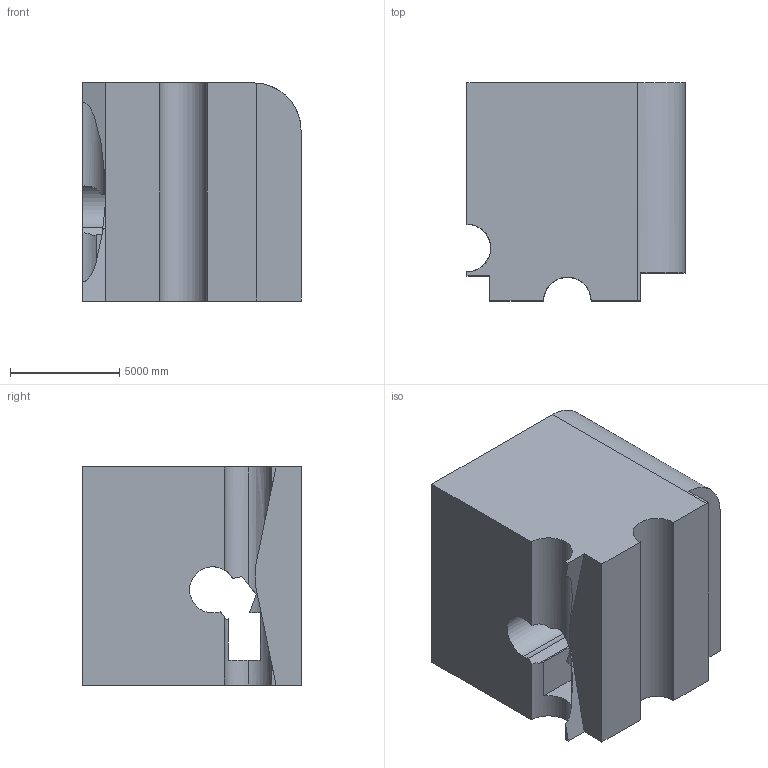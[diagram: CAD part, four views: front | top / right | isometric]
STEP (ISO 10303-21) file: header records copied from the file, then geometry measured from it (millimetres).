
FILE_DESCRIPTION (( 'STEP AP203' ), '1' );
FILE_NAME ('882.STEP', '2022-07-29T13:58:18', ( 'user' ), ( '' ), 'SwSTEP 2.0', 'SolidWorks 2021', '' );
FILE_SCHEMA (( 'CONFIG_CONTROL_DESIGN' ));
Length unit declared in the file: centimetre
Products named in the file (1): 882
Bounding box: 10000 x 10000 x 10000 mm (x, y, z)
Volume: 822585815278.5 mm3; surface area: 732993077.4 mm2
Topology: 1 solids, 1 shells, 37 faces, 102 edges, 68 vertices
Faces by surface type: plane 25, cylinder 12
Entity records: 1312 total; most frequent: CARTESIAN_POINT 283, ORIENTED_EDGE 204, DIRECTION 195, EDGE_CURVE 102, VERTEX_POINT 68, LINE 67, VECTOR 67, AXIS2_PLACEMENT_3D 64
